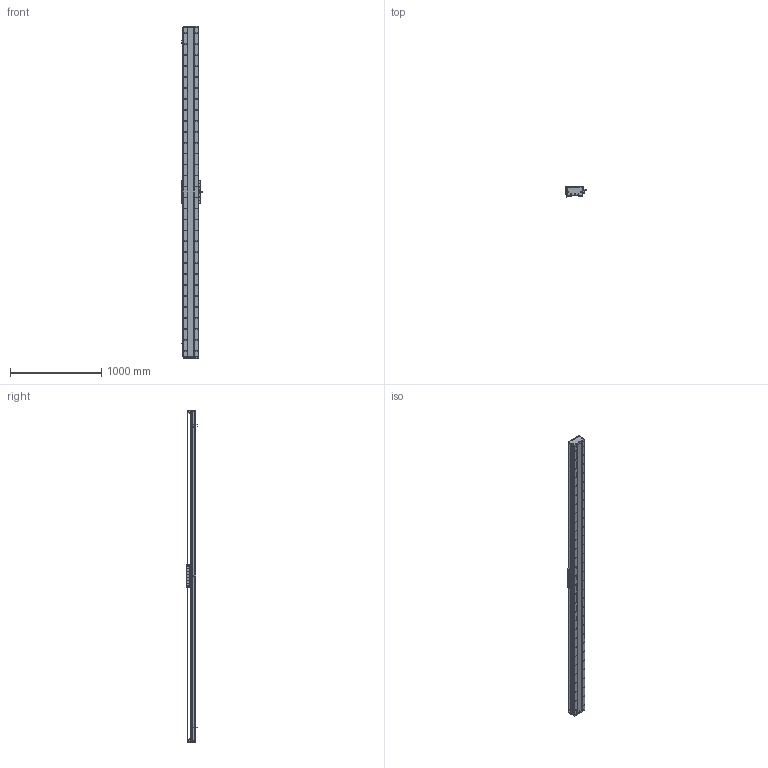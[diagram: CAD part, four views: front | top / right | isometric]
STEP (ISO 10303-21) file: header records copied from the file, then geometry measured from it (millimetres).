
FILE_DESCRIPTION (( 'STEP AP203' ), '1' );
FILE_NAME ('DA-C165-C3-T3300-C010-0.2 直线电机.STEP', '2023-06-13T09:01:56', ( '微软用户' ), ( '微软中国' ), 'SwSTEP 2.0', 'SolidWorks 2019', '' );
FILE_SCHEMA (( 'CONFIG_CONTROL_DESIGN' ));
Length unit declared in the file: millimetre
Products named in the file (18): 葩璃 DA95-GT-T-00^IU-CU165-L 菁釱絳寢_T; 复件 DA95-HXJ-00 缓冲橡胶^DA-C165-C3-T-C010-0.2-N 直线电机; 葩璃 CKM01-W075-TRL^DA-C165-C3-T-C010-0.2-N 眻盄萇儂; 复件 DA165-GDYK-00 钢带压块^复件 CU165钢带组件_DA-C165-C3-T-C010-0.2-N 直线电机; 复件 DA165-GDLK-00 钢带拉块^复件 CU165钢带组件_DA-C165-C3-T-C010-0.2-N 直线电机; 复件 DA165-GD-DG-H-00 端盖^复件 CU165钢带组件_DA-C165-C3-T-C010-0.2-N 直线电机; 复件 DMA-010-0.2 读数头^DA-C165-C3-T-C010-0.2-N 直线电机; 葩璃 PM-T45^DA-C165-C3-T-C010-0.2-N 眻盄萇儂; 复件 DA165-GD-1860-002-00 钢带盖板^复件 CU165钢带组件_DA-C165-C3-T-C010-0.2-N 直线电机; 复件 CU165 底座^IU-CU165-L 底座导轨_L3600; 复件 六角薄螺母 M3^DA-C165-C3-T-C010-0.2-N 直线电机_GB_FASTENER_NUT_STNAB M3-C; 复件 CU165钢带组件^DA-C165-C3-T-C010-0.2-N 直线电机; DA-C165-C3-T3300-C010-0.2 眻盄萇儂; IU-CU165-L 菁釱絳寢; 珨极趙賑雄怢啣C3-wf; 葩璃 CKM03-W075-C1C2-TP-3.0^DA-C165-C3-T-C010-0.2-N 眻盄萇儂; 复件 DA165-GYP-00 光电感应片^DA-C165-C3-T-C010-0.2-N 直线电机; 复件 XD-U-02L 磁栅尺^DA-C165-C3-T-C010-0.2-N 直线电机_T
Assembly tree (35 placements, depth 3):
  DA-C165-C3-T3300-C010-0.2 眻盄萇儂
    IU-CU165-L 菁釱絳寢
      复件 CU165 底座^IU-CU165-L 底座导轨_L3600
      葩璃 DA95-GT-T-00^IU-CU165-L 菁釱絳寢_T  x4
    复件 XD-U-02L 磁栅尺^DA-C165-C3-T-C010-0.2-N 直线电机_T
    葩璃 PM-T45^DA-C165-C3-T-C010-0.2-N 眻盄萇儂  x3
    葩璃 CKM01-W075-TRL^DA-C165-C3-T-C010-0.2-N 眻盄萇儂
    复件 CU165钢带组件^DA-C165-C3-T-C010-0.2-N 直线电机
      复件 DA165-GD-DG-H-00 端盖^复件 CU165钢带组件_DA-C165-C3-T-C010-0.2-N 直线电机  x2
      复件 DA165-GDYK-00 钢带压块^复件 CU165钢带组件_DA-C165-C3-T-C010-0.2-N 直线电机  x2
      复件 DA165-GD-1860-002-00 钢带盖板^复件 CU165钢带组件_DA-C165-C3-T-C010-0.2-N 直线电机
      复件 DA165-GDLK-00 钢带拉块^复件 CU165钢带组件_DA-C165-C3-T-C010-0.2-N 直线电机  x2
    复件 DA95-HXJ-00 缓冲橡胶^DA-C165-C3-T-C010-0.2-N 直线电机  x4
    复件 DA165-GYP-00 光电感应片^DA-C165-C3-T-C010-0.2-N 直线电机
    复件 DMA-010-0.2 读数头^DA-C165-C3-T-C010-0.2-N 直线电机
    葩璃 CKM03-W075-C1C2-TP-3.0^DA-C165-C3-T-C010-0.2-N 眻盄萇儂
    复件 六角薄螺母 M3^DA-C165-C3-T-C010-0.2-N 直线电机_GB_FASTENER_NUT_STNAB M3-C  x8
    珨极趙賑雄怢啣C3-wf
Bounding box: 233 x 111.45 x 3640 mm (x, y, z)
Volume: 19983247.7 mm3; surface area: 6044141.8 mm2
Topology: 72 solids, 122 shells, 4858 faces, 14345 edges, 9140 vertices
Faces by surface type: cylinder 2984, plane 1248, cone 576, torus 46, sphere 4
Entity records: 168679 total; most frequent: CARTESIAN_POINT 47785, ORIENTED_EDGE 25442, DIRECTION 24295, EDGE_CURVE 12721, AXIS2_PLACEMENT_3D 9382, VERTEX_POINT 8328, EDGE_LOOP 5839, LINE 5531
